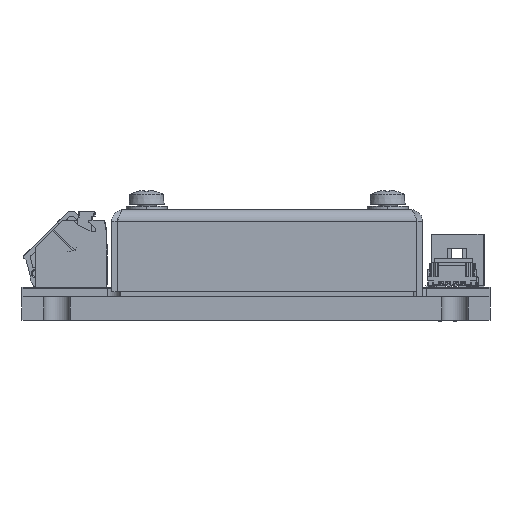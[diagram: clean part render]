
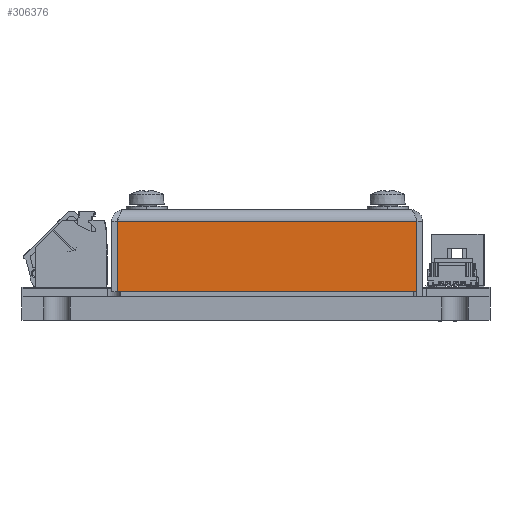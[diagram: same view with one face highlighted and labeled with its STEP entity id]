
A CAD part, front view. The second image highlights one B-rep face of the part: STEP entity #306376.
In plain terms, the highlighted planar face has unit normal (0, -1, 0) as drawn and (1, 0, 0) by its records, which use the part's own axes.
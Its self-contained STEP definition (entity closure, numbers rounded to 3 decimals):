
#304956=DIRECTION('',(0.,0.,1.));
#304957=VECTOR('',#304956,51.2);
#304958=CARTESIAN_POINT('',(50.,-1.,-25.6));
#304959=LINE('',#304958,#304957);
#304985=DIRECTION('',(0.,0.,-1.));
#304986=VECTOR('',#304985,51.2);
#304987=CARTESIAN_POINT('',(50.,-13.,25.6));
#304988=LINE('',#304987,#304986);
#304992=DIRECTION('',(0.,-1.,0.));
#304993=VECTOR('',#304992,12.);
#304994=CARTESIAN_POINT('',(50.,-1.,25.6));
#304995=LINE('',#304994,#304993);
#305013=DIRECTION('',(0.,-1.,0.));
#305014=VECTOR('',#305013,12.);
#305015=CARTESIAN_POINT('',(50.,-1.,-25.6));
#305016=LINE('',#305015,#305014);
#305319=CARTESIAN_POINT('',(50.,-1.,25.6));
#305320=CARTESIAN_POINT('',(50.,-13.,25.6));
#305321=VERTEX_POINT('',#305319);
#305322=VERTEX_POINT('',#305320);
#305373=CARTESIAN_POINT('',(50.,-1.,-25.6));
#305374=CARTESIAN_POINT('',(50.,-13.,-25.6));
#305375=VERTEX_POINT('',#305373);
#305376=VERTEX_POINT('',#305374);
#306362=CARTESIAN_POINT('',(50.,1.,26.6));
#306363=DIRECTION('',(1.,0.,0.));
#306364=DIRECTION('',(0.,0.,1.));
#306365=AXIS2_PLACEMENT_3D('',#306362,#306363,#306364);
#306366=PLANE('',#306365);
#306368=ORIENTED_EDGE('',*,*,#306367,.T.);
#306370=ORIENTED_EDGE('',*,*,#306369,.F.);
#306372=ORIENTED_EDGE('',*,*,#306371,.F.);
#306373=ORIENTED_EDGE('',*,*,#306355,.F.);
#306374=EDGE_LOOP('',(#306368,#306370,#306372,#306373));
#306375=FACE_OUTER_BOUND('',#306374,.F.);
#306376=ADVANCED_FACE('',(#306375),#306366,.T.);
#306355=EDGE_CURVE('',#305375,#305321,#304959,.T.);
#306367=EDGE_CURVE('',#305375,#305376,#305016,.T.);
#306369=EDGE_CURVE('',#305322,#305376,#304988,.T.);
#306371=EDGE_CURVE('',#305321,#305322,#304995,.T.);
